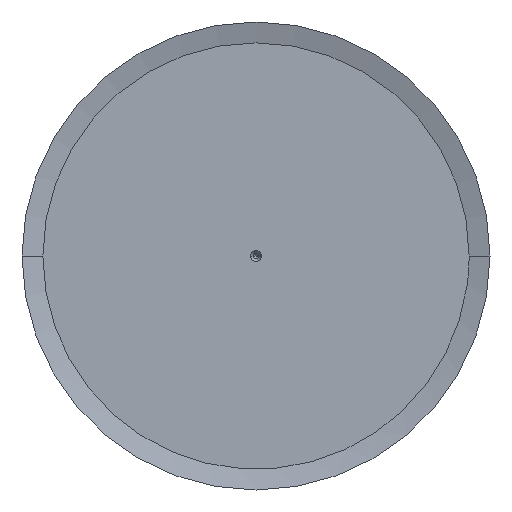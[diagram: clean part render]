
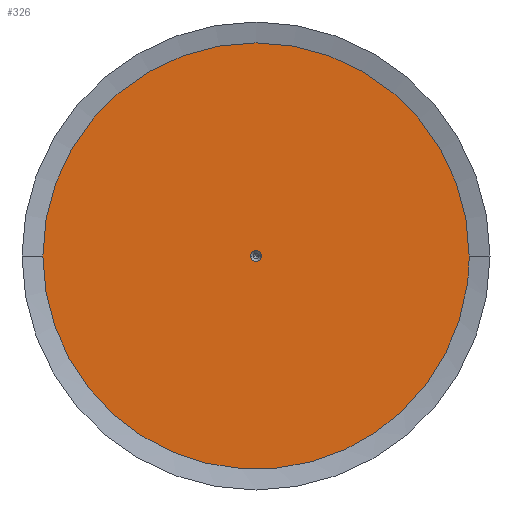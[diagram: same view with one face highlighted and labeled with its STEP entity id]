
A CAD part, left-side view. The second image highlights one B-rep face of the part: STEP entity #326.
In plain terms, the highlighted planar face has unit normal (-1, 0, 0).
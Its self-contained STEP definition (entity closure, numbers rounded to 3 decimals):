
#326=ADVANCED_FACE('',(#892,#893),#894,.T.);
#892=FACE_BOUND('',#1461,.T.);
#893=FACE_OUTER_BOUND('',#1462,.T.);
#894=PLANE('',#1463);
#1461=EDGE_LOOP('',(#3937,#3938));
#1462=EDGE_LOOP('',(#3939,#3940,#3941));
#1463=AXIS2_PLACEMENT_3D('',#3942,#3943,#3944);
#3937=ORIENTED_EDGE('',*,*,#4218,.T.);
#3938=ORIENTED_EDGE('',*,*,#4231,.T.);
#3939=ORIENTED_EDGE('',*,*,#4079,.T.);
#3940=ORIENTED_EDGE('',*,*,#4603,.T.);
#3941=ORIENTED_EDGE('',*,*,#4080,.T.);
#3942=CARTESIAN_POINT('',(0.0,0.0,0.0));
#3943=DIRECTION('',(-1.0,0.0,0.0));
#3944=DIRECTION('',(0.0,0.0,1.0));
#4079=EDGE_CURVE('',#5017,#5015,#5018,.T.);
#4080=EDGE_CURVE('',#5012,#5017,#5019,.T.);
#4218=EDGE_CURVE('',#5284,#5286,#5288,.T.);
#4231=EDGE_CURVE('',#5286,#5284,#5308,.T.);
#4603=EDGE_CURVE('',#5015,#5012,#5899,.T.);
#5012=VERTEX_POINT('',#6886);
#5015=VERTEX_POINT('',#6890);
#5017=VERTEX_POINT('',#6893);
#5018=CIRCLE('',#6894,76.5);
#5019=CIRCLE('',#6895,76.5);
#5284=VERTEX_POINT('',#7678);
#5286=VERTEX_POINT('',#7681);
#5288=CIRCLE('',#7684,2.0);
#5308=CIRCLE('',#7710,2.0);
#5899=CIRCLE('',#8905,76.5);
#6886=CARTESIAN_POINT('',(0.0,76.5,0.));
#6890=CARTESIAN_POINT('',(0.0,-76.5,0.));
#6893=CARTESIAN_POINT('',(0.0,-75.746,-10.711));
#6894=AXIS2_PLACEMENT_3D('',#9865,#9866,#9867);
#6895=AXIS2_PLACEMENT_3D('',#9868,#9869,#9870);
#7678=CARTESIAN_POINT('',(0.0,2.0,0.0));
#7681=CARTESIAN_POINT('',(0.0,-2.0,0.));
#7684=AXIS2_PLACEMENT_3D('',#10034,#10035,#10036);
#7710=AXIS2_PLACEMENT_3D('',#10061,#10062,#10063);
#8905=AXIS2_PLACEMENT_3D('',#10776,#10777,#10778);
#9865=CARTESIAN_POINT('',(0.0,0.0,0.0));
#9866=DIRECTION('',(-1.0,0.0,0.0));
#9867=DIRECTION('',(0.0,1.0,0.0));
#9868=CARTESIAN_POINT('',(0.0,0.0,0.0));
#9869=DIRECTION('',(-1.0,0.0,0.0));
#9870=DIRECTION('',(0.0,1.0,0.0));
#10034=CARTESIAN_POINT('',(0.0,0.0,0.0));
#10035=DIRECTION('',(1.0,0.0,0.0));
#10036=DIRECTION('',(0.0,1.0,0.0));
#10061=CARTESIAN_POINT('',(0.0,0.0,0.0));
#10062=DIRECTION('',(1.0,0.0,0.0));
#10063=DIRECTION('',(0.0,1.0,0.0));
#10776=CARTESIAN_POINT('',(0.0,0.0,0.0));
#10777=DIRECTION('',(-1.0,0.0,0.0));
#10778=DIRECTION('',(0.0,1.0,0.0));
